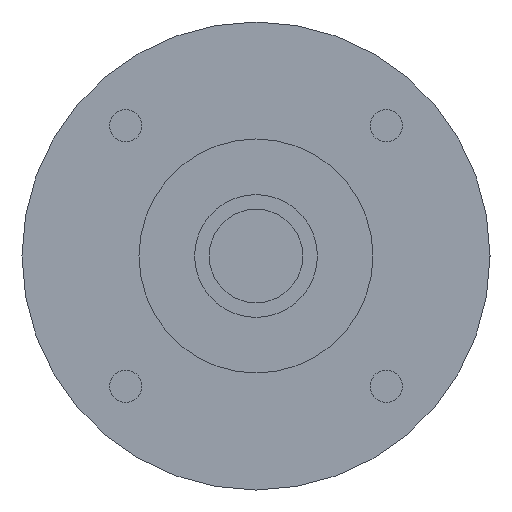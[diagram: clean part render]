
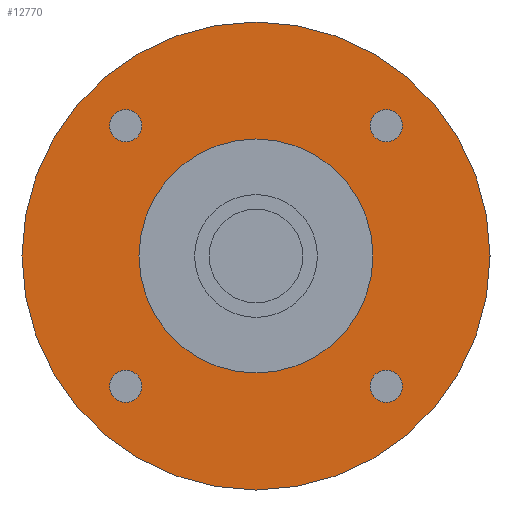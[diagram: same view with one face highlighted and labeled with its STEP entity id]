
A CAD part, left-side view. The second image highlights one B-rep face of the part: STEP entity #12770.
In plain terms, the highlighted planar face has unit normal (-1, 0, 0) as drawn and (0, 0, -1) by its records, which use the part's own axes.
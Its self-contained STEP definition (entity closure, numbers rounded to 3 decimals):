
#11630=CARTESIAN_POINT('',(-40.,0.,-42.2));
#11640=VERTEX_POINT('',#11630);
#11730=CARTESIAN_POINT('',(40.,0.,-42.2));
#11740=VERTEX_POINT('',#11730);
#11770=CARTESIAN_POINT('',(0.,0.,
-42.2));
#11780=DIRECTION('',(0.,0.,1.));
#11790=DIRECTION('',(1.,0.,0.));
#11800=AXIS2_PLACEMENT_3D('',#11770,#11780,#11790);
#11810=CIRCLE('',#11800,40.);
#11820=CARTESIAN_POINT('',(0.,-40.,-42.2));
#11830=VERTEX_POINT('',#11820);
#11840=EDGE_CURVE('',#11830,#11740,#11810,.T.);
#11860=EDGE_CURVE('',#11640,#11830,#11810,.T.);
#11910=CARTESIAN_POINT('',(0.,0.,
-42.2));
#11920=DIRECTION('',(0.,0.,-1.));
#11930=DIRECTION('',(1.,0.,0.));
#11940=AXIS2_PLACEMENT_3D('',#11910,#11920,#11930);
#11950=PLANE('',#11940);
#11960=CARTESIAN_POINT('',(22.274,22.274,-42.2));
#11970=DIRECTION('',(0.,0.,-1.));
#11980=DIRECTION('',(0.,1.,0.));
#11990=AXIS2_PLACEMENT_3D('',#11960,#11970,#11980);
#12000=CIRCLE('',#11990,2.75);
#12010=CARTESIAN_POINT('',(22.274,25.024,-42.2));
#12020=VERTEX_POINT('',#12010);
#12030=CARTESIAN_POINT('',(22.274,19.524,-42.2));
#12040=VERTEX_POINT('',#12030);
#12050=EDGE_CURVE('',#12020,#12040,#12000,.T.);
#12060=ORIENTED_EDGE('',*,*,#12050,.F.);
#12070=EDGE_CURVE('',#12040,#12020,#12000,.T.);
#12080=ORIENTED_EDGE('',*,*,#12070,.F.);
#12090=EDGE_LOOP('',(#12080,#12060));
#12100=FACE_BOUND('',#12090,.T.);
#12110=CARTESIAN_POINT('',(-22.274,22.274,-42.2));
#12120=DIRECTION('',(0.,0.,-1.));
#12130=DIRECTION('',(-1.,0.,0.));
#12140=AXIS2_PLACEMENT_3D('',#12110,#12120,#12130);
#12150=CIRCLE('',#12140,2.75);
#12160=CARTESIAN_POINT('',(-25.024,22.274,-42.2));
#12170=VERTEX_POINT('',#12160);
#12180=CARTESIAN_POINT('',(-19.524,22.274,-42.2));
#12190=VERTEX_POINT('',#12180);
#12200=EDGE_CURVE('',#12170,#12190,#12150,.T.);
#12210=ORIENTED_EDGE('',*,*,#12200,.F.);
#12220=EDGE_CURVE('',#12190,#12170,#12150,.T.);
#12230=ORIENTED_EDGE('',*,*,#12220,.F.);
#12240=EDGE_LOOP('',(#12230,#12210));
#12250=FACE_BOUND('',#12240,.T.);
#12260=CARTESIAN_POINT('',(-22.274,-22.274,-42.2));
#12270=DIRECTION('',(0.,0.,-1.));
#12280=DIRECTION('',(0.,-1.,0.));
#12290=AXIS2_PLACEMENT_3D('',#12260,#12270,#12280);
#12300=CIRCLE('',#12290,2.75);
#12310=CARTESIAN_POINT('',(-22.274,-25.024,-42.2));
#12320=VERTEX_POINT('',#12310);
#12330=CARTESIAN_POINT('',(-22.274,-19.524,-42.2));
#12340=VERTEX_POINT('',#12330);
#12350=EDGE_CURVE('',#12320,#12340,#12300,.T.);
#12360=ORIENTED_EDGE('',*,*,#12350,.F.);
#12370=EDGE_CURVE('',#12340,#12320,#12300,.T.);
#12380=ORIENTED_EDGE('',*,*,#12370,.F.);
#12390=EDGE_LOOP('',(#12380,#12360));
#12400=FACE_BOUND('',#12390,.T.);
#12410=CARTESIAN_POINT('',(0.,0.,
-42.2));
#12420=DIRECTION('',(0.,0.,-1.));
#12430=DIRECTION('',(-1.,0.,0.));
#12440=AXIS2_PLACEMENT_3D('',#12410,#12420,#12430);
#12450=CIRCLE('',#12440,20.);
#12460=CARTESIAN_POINT('',(-20.,0.,-42.2));
#12470=VERTEX_POINT('',#12460);
#12480=CARTESIAN_POINT('',(20.,0.,-42.2));
#12490=VERTEX_POINT('',#12480);
#12500=EDGE_CURVE('',#12470,#12490,#12450,.T.);
#12510=ORIENTED_EDGE('',*,*,#12500,.F.);
#12520=EDGE_CURVE('',#12490,#12470,#12450,.T.);
#12530=ORIENTED_EDGE('',*,*,#12520,.F.);
#12540=EDGE_LOOP('',(#12530,#12510));
#12550=FACE_BOUND('',#12540,.T.);
#12560=CARTESIAN_POINT('',(22.274,-22.274,-42.2));
#12570=DIRECTION('',(0.,0.,-1.));
#12580=DIRECTION('',(1.,0.,0.));
#12590=AXIS2_PLACEMENT_3D('',#12560,#12570,#12580);
#12600=CIRCLE('',#12590,2.75);
#12610=CARTESIAN_POINT('',(25.024,-22.274,-42.2));
#12620=VERTEX_POINT('',#12610);
#12630=CARTESIAN_POINT('',(19.524,-22.274,-42.2));
#12640=VERTEX_POINT('',#12630);
#12650=EDGE_CURVE('',#12620,#12640,#12600,.T.);
#12660=ORIENTED_EDGE('',*,*,#12650,.F.);
#12670=EDGE_CURVE('',#12640,#12620,#12600,.T.);
#12680=ORIENTED_EDGE('',*,*,#12670,.F.);
#12690=EDGE_LOOP('',(#12680,#12660));
#12700=FACE_BOUND('',#12690,.T.);
#12710=ORIENTED_EDGE('',*,*,#11840,.F.);
#12720=EDGE_CURVE('',#11740,#11640,#11810,.T.);
#12730=ORIENTED_EDGE('',*,*,#12720,.F.);
#12740=ORIENTED_EDGE('',*,*,#11860,.F.);
#12750=EDGE_LOOP('',(#12740,#12730,#12710));
#12760=FACE_OUTER_BOUND('',#12750,.T.);
#12770=ADVANCED_FACE('',(#12100,#12250,#12400,#12550,#12700,#12760),
#11950,.T.);
